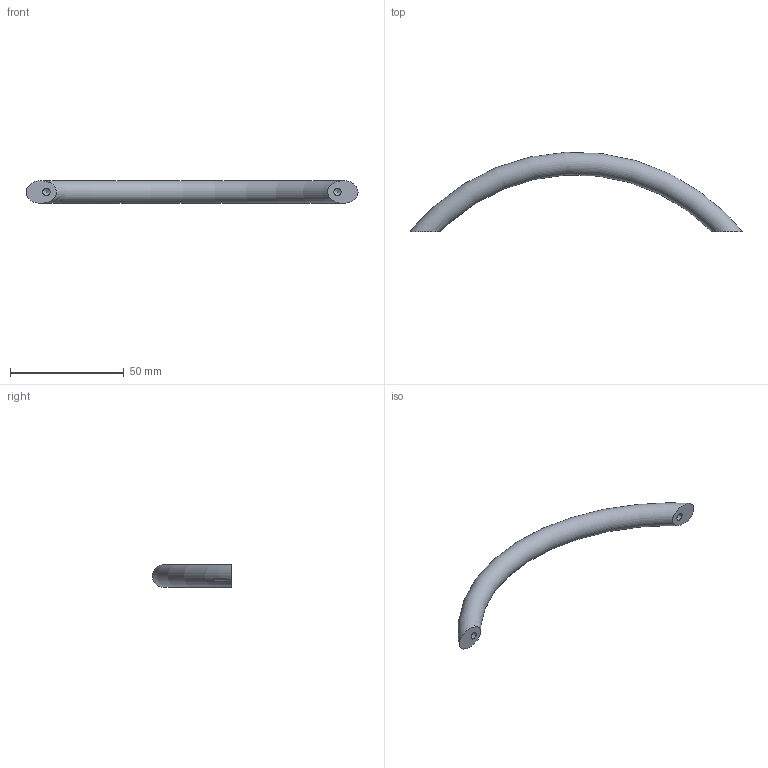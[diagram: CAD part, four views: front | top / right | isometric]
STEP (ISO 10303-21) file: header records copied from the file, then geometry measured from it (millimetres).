
FILE_DESCRIPTION( ( 'STEP AP203' ), '1' );
FILE_NAME( 'C:/Temp/Ganter_Step_05_03_2020/data/1_2/gn424_1/Arch handle GN 424.1-10-128-CR.stp', '2020-03-05T10:12:26', ( 'License CC BY-ND 4.0' ), ( 'CADENAS' ), ' ', 'PARTsolutions', ' ' );
FILE_SCHEMA( ( 'CONFIG_CONTROL_DESIGN' ) );
Length unit declared in the file: millimetre
Products named in the file (1): _Arch handle GN 424.1-10-128-CR
Bounding box: 146 x 34.89 x 10 mm (x, y, z)
Volume: 11707.3 mm3; surface area: 5040.6 mm2
Topology: 1 solids, 1 shells, 7 faces, 14 edges, 9 vertices
Faces by surface type: cone 2, cylinder 2, plane 2, torus 1
Full cylindrical faces by diameter (mm): 3.242 x2
Entity records: 342 total; most frequent: CARTESIAN_POINT 184, DIRECTION 24, AXIS2_PLACEMENT_3D 12, EDGE_LOOP 12, ORIENTED_EDGE 12, FACE_OUTER_BOUND 10, VERTEX_POINT 8, ADVANCED_FACE 7
